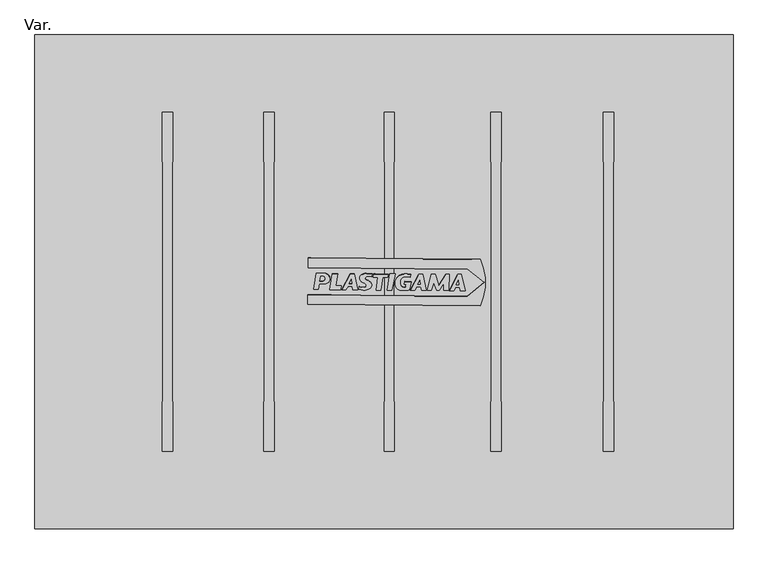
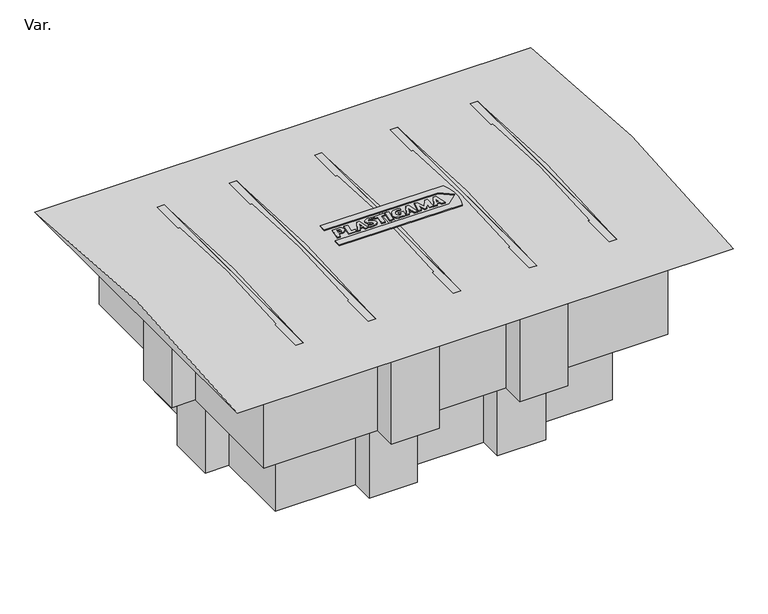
"""IFC4 building model written with IfcOpenShell, lengths in millimetres: pipe fitting geometry, PlastigamaWavin_Unionesdetubería_TanqueRectangular : Var.."""

from ifc_helpers import new_model, si_unit, point, frame, frame_2d, origin, origin_with_axes, place, context, project, spatial, polyline, circle_curve, trimmed, segment, composite_curve, outline, extrude, source, transform, mapped, element, save
from ifc_brep_helpers import plane_surface, cylinder_surface, advanced_brep


def var_d6a1bb93(model_context):
    return source(origin(), model_context, "Body", "SolidModel", [
        extrude(outline(composite_curve([segment(polyline([(-88.5809308, 416.0455503), (-120.1320369, 391.3951247), (-88.242825, 364.6368987), (217.5156325, 367.4665486), (217.5156325, 348.5780649), (-112.86166, 345.5205794)]), True, "CONTINUOUS"), segment(trimmed(circle_curve(frame_2d((-13.6192807, 390.2348931)), 108.8504464), [point((-112.86166, 345.5205794))], [point((-112.86166, 434.9492068))], False, "CARTESIAN"), True, "CONTINUOUS"), segment(polyline([(-112.86166, 434.9492068), (216.8628728, 438.0006513), (216.8628728, 418.8722882), (-88.5809308, 416.0455503)]), True, "CONTINUOUS")], self_intersect=False)), frame((-547.5, 0.0, 0.0), z_axis=(1.0, 0.0, 0.0), x_axis=(0.0, 1.0, 0.0)), (0.0, 0.0, 1.0), 2.5),
        extrude(outline(composite_curve([segment(polyline([(201.6698291, 408.1393793), (206.0020211, 377.3142314), (197.7283013, 377.3142314), (195.6256275, 388.1315504), (185.2734472, 388.1315504)]), True, "CONTINUOUS"), segment(trimmed(circle_curve(frame_2d((185.2734472, 398.1354648)), 10.0039144), [point((185.2734472, 388.1315504))], [point((185.2734472, 408.1393793))], False, "CARTESIAN"), True, "CONTINUOUS"), segment(polyline([(185.2734472, 408.1393793), (201.6698291, 408.1393793)]), True, "CONTINUOUS")], self_intersect=False), holes=[composite_curve([segment(polyline([(194.613233, 393.3398687), (192.8751255, 402.2816565), (188.0365168, 402.2816565)]), True, "CONTINUOUS"), segment(trimmed(circle_curve(frame_2d((189.2932031, 397.8990705)), 4.5592018), [point((188.0365168, 402.2816565))], [point((189.2932031, 393.3398687))], True, "CARTESIAN"), True, "CONTINUOUS"), segment(polyline([(189.2932031, 393.3398687), (194.613233, 393.3398687)]), True, "CONTINUOUS")], self_intersect=False)]), frame((-547.5, 0.0, 0.0), z_axis=(1.0, 0.0, 0.0), x_axis=(0.0, 1.0, 0.0)), (0.0, 0.0, 1.0), 2.5),
        extrude(outline(polyline([(170.8255894, 407.7027058), (175.6978376, 376.9405417), (154.8381525, 376.9405417), (153.7261656, 383.9613506), (164.2084615, 383.9613506), (159.9260442, 407.7027058), (170.8255894, 407.7027058)])), frame((-547.5, 0.0, 0.0), z_axis=(1.0, 0.0, 0.0), x_axis=(0.0, 1.0, 0.0)), (0.0, 0.0, 1.0), 2.5),
        extrude(outline(polyline([(128.8118841, 407.7027058), (136.1408874, 407.7027058), (152.8286562, 376.6692874), (144.7707029, 376.6692874), (140.2915755, 383.5665388), (132.8077756, 383.5665388), (130.9596626, 376.6692874), (122.2155274, 376.6692874), (128.8118841, 407.7027058)]), holes=[polyline([(133.5049757, 388.4644692), (138.0944411, 388.4644692), (134.3647219, 396.6444079), (133.5049757, 388.4644692)])]), frame((-547.5, 0.0, 0.0), z_axis=(1.0, 0.0, 0.0), x_axis=(0.0, 1.0, 0.0)), (0.0, 0.0, 1.0), 2.5),
        extrude(outline(composite_curve([segment(polyline([(119.584991, 377.6685057), (114.9189116, 376.4182335)]), True, "CONTINUOUS"), segment(trimmed(circle_curve(frame_2d((109.6430193, 396.1081318)), 20.3844826), [point((114.9189116, 376.4182335))], [point((107.8663946, 375.8012182))], False, "CARTESIAN"), True, "CONTINUOUS"), segment(trimmed(circle_curve(frame_2d((109.6430193, 396.1081318)), 20.3844826), [point((107.8663946, 375.8012182))], [point((99.4437904, 378.4586881))], False, "CARTESIAN"), True, "CONTINUOUS"), segment(trimmed(circle_curve(frame_2d((103.6744385, 385.7796912)), 8.4554994), [point((99.4437904, 378.4586881))], [point((99.4437904, 393.1006944))], False, "CARTESIAN"), True, "CONTINUOUS"), segment(trimmed(circle_curve(frame_2d((112.325438, 374.0880605)), 22.9655632), [point((99.4437904, 393.1006944))], [point((104.9982225, 395.8533771))], False, "CARTESIAN"), True, "CONTINUOUS"), segment(trimmed(circle_curve(frame_2d((103.8943008, 399.1325499)), 3.4600025), [point((104.9982225, 395.8533771))], [point((103.8943008, 402.5925524))], True, "CARTESIAN"), True, "CONTINUOUS"), segment(trimmed(circle_curve(frame_2d((103.8943008, 373.6344155)), 28.9581368), [point((103.8943008, 402.5925524))], [point((99.7245326, 402.2907712))], True, "CARTESIAN"), True, "CONTINUOUS"), segment(polyline([(99.7245326, 402.2907712), (95.0680697, 401.7190295), (94.0876951, 407.2790101), (105.8169562, 408.3051875)]), True, "CONTINUOUS"), segment(trimmed(circle_curve(frame_2d((106.8712484, 396.2545731)), 12.0966457), [point((105.8169562, 408.3051875))], [point((117.8345326, 401.3668365))], False, "CARTESIAN"), True, "CONTINUOUS"), segment(trimmed(circle_curve(frame_2d((107.770642, 399.4400459)), 10.2466782), [point((117.8345326, 401.3668365))], [point((111.1339377, 389.7610658))], False, "CARTESIAN"), True, "CONTINUOUS"), segment(trimmed(circle_curve(frame_2d((116.3539361, 374.7388179)), 15.9033429), [point((111.1339377, 389.7610658))], [point((106.5874215, 387.2899735))], True, "CARTESIAN"), True, "CONTINUOUS"), segment(trimmed(circle_curve(frame_2d((109.0518238, 384.9327152)), 3.4102706), [point((106.5874215, 387.2899735))], [point((108.0962179, 381.6590685))], True, "CARTESIAN"), True, "CONTINUOUS"), segment(trimmed(circle_curve(frame_2d((111.8653937, 394.5712431)), 13.4510572), [point((108.0962179, 381.6590685))], [point((118.6523193, 382.9579498))], True, "CARTESIAN"), True, "CONTINUOUS"), segment(polyline([(118.6523193, 382.9579498), (119.584991, 377.6685057)]), True, "CONTINUOUS")], self_intersect=False)), frame((-547.5, 0.0, 0.0), z_axis=(1.0, 0.0, 0.0), x_axis=(0.0, 1.0, 0.0)), (0.0, 0.0, 1.0), 2.5),
        extrude(outline(polyline([(92.074803, 400.1876514), (83.1378511, 400.1876514), (86.5167803, 376.1453206), (77.8423841, 376.1453206), (73.6030725, 400.1876514), (64.6242139, 400.1876514), (63.7205181, 406.6177811), (90.8091313, 407.3656318), (92.074803, 400.1876514)])), frame((-547.5, 0.0, 0.0), z_axis=(1.0, 0.0, 0.0), x_axis=(0.0, 1.0, 0.0)), (0.0, 0.0, 1.0), 2.5),
        extrude(outline(polyline([(60.1767768, 407.2582549), (65.1188329, 376.0553407), (56.3976628, 376.0553407), (50.384977, 406.9879272), (60.1767768, 407.2582549)])), frame((-547.5, 0.0, 0.0), z_axis=(1.0, 0.0, 0.0), x_axis=(0.0, 1.0, 0.0)), (0.0, 0.0, 1.0), 2.5),
        extrude(outline(composite_curve([segment(polyline([(32.5146815, 387.3915301), (29.127239, 387.3915301), (29.5605975, 383.862108)]), True, "CONTINUOUS"), segment(trimmed(circle_curve(frame_2d((32.1745583, 384.183062)), 2.6335912), [point((29.5605975, 383.862108))], [point((32.1745583, 381.5494709))], True, "CARTESIAN"), True, "CONTINUOUS"), segment(trimmed(circle_curve(frame_2d((33.3945555, 386.3157124)), 4.9199036), [point((32.1745583, 381.5494709))], [point((36.5164086, 382.5131494))], True, "CARTESIAN"), True, "CONTINUOUS"), segment(trimmed(circle_curve(frame_2d((29.4504552, 391.1198109)), 11.1356328), [point((36.5164086, 382.5131494))], [point((35.0451819, 400.747965))], True, "CARTESIAN"), True, "CONTINUOUS"), segment(trimmed(circle_curve(frame_2d((30.5136813, 392.9495524)), 9.0194089), [point((35.0451819, 400.747965))], [point((28.3343875, 401.7017187))], True, "CARTESIAN"), True, "CONTINUOUS"), segment(polyline([(28.3343875, 401.7017187), (21.4007175, 400.6791181), (20.1079096, 406.2788846), (27.0431915, 407.1304302), (33.0664389, 407.1304302)]), True, "CONTINUOUS"), segment(trimmed(circle_curve(frame_2d((33.0664389, 390.4756057)), 16.6548245), [point((33.0664389, 407.1304302))], [point((47.1905311, 399.301318))], False, "CARTESIAN"), True, "CONTINUOUS"), segment(trimmed(circle_curve(frame_2d((31.5657054, 389.5378433)), 18.424457), [point((47.1905311, 399.301318))], [point((47.1905311, 379.7743686))], False, "CARTESIAN"), True, "CONTINUOUS"), segment(trimmed(circle_curve(frame_2d((39.2708488, 384.7231353)), 9.3387183), [point((47.1905311, 379.7743686))], [point((37.9711504, 375.4753008))], False, "CARTESIAN"), True, "CONTINUOUS"), segment(polyline([(37.9711504, 375.4753008), (29.1775876, 375.4753008)]), True, "CONTINUOUS"), segment(trimmed(circle_curve(frame_2d((29.1775876, 392.9504667)), 17.4751659), [point((29.1775876, 375.4753008))], [point((24.750873, 376.0452716))], False, "CARTESIAN"), True, "CONTINUOUS"), segment(trimmed(circle_curve(frame_2d((26.079769, 379.7794702)), 3.96361), [point((24.750873, 376.0452716))], [point((22.1889817, 379.0231778))], False, "CARTESIAN"), True, "CONTINUOUS"), segment(polyline([(22.1889817, 379.0231778), (19.5914449, 392.3863464), (32.1418426, 392.7233748), (32.5146815, 387.3915301)]), True, "CONTINUOUS")], self_intersect=False)), frame((-547.5, 0.0, 0.0), z_axis=(1.0, 0.0, 0.0), x_axis=(0.0, 1.0, 0.0)), (0.0, 0.0, 1.0), 2.5),
        extrude(outline(polyline([(4.8892777, 406.3332951), (21.2967643, 375.4753008), (12.5730607, 375.4753008), (8.8490921, 382.4790671), (0.7596732, 382.4790671), (-0.7290233, 375.4753008), (-9.5372046, 375.4753008), (-2.9781354, 406.3332951), (4.8892777, 406.3332951)]), holes=[polyline([(6.4161248, 387.0548131), (3.0005982, 395.1012895), (2.2447246, 387.0548131), (6.4161248, 387.0548131)])]), frame((-547.5, 0.0, 0.0), z_axis=(1.0, 0.0, 0.0), x_axis=(0.0, 1.0, 0.0)), (0.0, 0.0, 1.0), 2.5),
        extrude(outline(polyline([(-18.6714563, 406.3332951), (-10.9776942, 375.4753008), (-19.2738764, 375.4753008), (-23.4902412, 390.1795123), (-29.1346591, 375.4753008), (-34.6217202, 375.4753008), (-43.4360082, 389.0481142), (-42.7246872, 375.4753008), (-52.2360368, 375.4753008), (-53.8532358, 406.3332951), (-46.3877429, 406.3332951), (-32.995498, 385.7110464), (-26.2949233, 406.3332951), (-18.6714563, 406.3332951)])), frame((-547.5, 0.0, 0.0), z_axis=(1.0, 0.0, 0.0), x_axis=(0.0, 1.0, 0.0)), (0.0, 0.0, 1.0), 2.5),
        extrude(outline(polyline([(-69.7341912, 406.1650904), (-53.1114968, 374.902349), (-61.8093366, 374.902349), (-65.8134017, 381.0680686), (-73.2642316, 381.0680686), (-74.6877001, 374.902349), (-84.0352977, 374.902349), (-76.8177252, 406.1650904), (-69.7341912, 406.1650904)]), holes=[polyline([(-71.0007911, 394.6041785), (-72.1051349, 386.0886678), (-67.3861713, 386.0886678), (-71.0007911, 394.6041785)])]), frame((-547.5, 0.0, 0.0), z_axis=(1.0, 0.0, 0.0), x_axis=(0.0, 1.0, 0.0)), (0.0, 0.0, 1.0), 2.5),
        extrude(outline(composite_curve([segment(polyline([(-233.5329045, 391.3221132), (-538.9767081, 394.1488511), (-538.9767081, 413.2772142), (-209.2521753, 410.2257696)]), True, "CONTINUOUS"), segment(trimmed(circle_curve(frame_2d((-308.4945546, 365.5114559)), 108.8504464), [point((-209.2521753, 410.2257696))], [point((-209.2521753, 320.7971422))], False, "CARTESIAN"), True, "CONTINUOUS"), segment(polyline([(-209.2521753, 320.7971422), (-539.6294678, 323.8546278), (-539.6294678, 342.7431114), (-233.8710103, 339.9134616), (-201.9817984, 366.6716875), (-233.5329045, 391.3221132)]), True, "CONTINUOUS")], self_intersect=False)), frame((545.0, 0.0, 0.0), z_axis=(1.0, 0.0, 0.0), x_axis=(0.0, 1.0, 0.0)), (0.0, 0.0, 1.0), 2.5),
        extrude(outline(composite_curve([segment(polyline([(-523.7836644, 383.4159421), (-507.3872825, 383.4159421)]), True, "CONTINUOUS"), segment(trimmed(circle_curve(frame_2d((-507.3872825, 373.4120277)), 10.0039144), [point((-507.3872825, 383.4159421))], [point((-507.3872825, 363.4081132))], False, "CARTESIAN"), True, "CONTINUOUS"), segment(polyline([(-507.3872825, 363.4081132), (-517.7394629, 363.4081132), (-519.8421367, 352.5907942), (-528.1158564, 352.5907942), (-523.7836644, 383.4159421)]), True, "CONTINUOUS")], self_intersect=False), holes=[composite_curve([segment(polyline([(-516.7270683, 368.6164316), (-511.4070385, 368.6164316)]), True, "CONTINUOUS"), segment(trimmed(circle_curve(frame_2d((-511.4070385, 373.1756333)), 4.5592018), [point((-511.4070385, 368.6164316))], [point((-510.1503521, 377.5582194))], True, "CARTESIAN"), True, "CONTINUOUS"), segment(polyline([(-510.1503521, 377.5582194), (-514.9889608, 377.5582194), (-516.7270683, 368.6164316)]), True, "CONTINUOUS")], self_intersect=False)]), frame((545.0, 0.0, 0.0), z_axis=(1.0, 0.0, 0.0), x_axis=(0.0, 1.0, 0.0)), (0.0, 0.0, 1.0), 2.5),
        extrude(outline(polyline([(-492.9394247, 382.9792687), (-482.0398795, 382.9792687), (-486.3222969, 359.2379134), (-475.8400009, 359.2379134), (-476.9519878, 352.2171046), (-497.8116729, 352.2171046), (-492.9394247, 382.9792687)])), frame((545.0, 0.0, 0.0), z_axis=(1.0, 0.0, 0.0), x_axis=(0.0, 1.0, 0.0)), (0.0, 0.0, 1.0), 2.5),
        extrude(outline(polyline([(-450.9257194, 382.9792687), (-444.3293627, 351.9458502), (-453.0734979, 351.9458502), (-454.9216109, 358.8431016), (-462.4054108, 358.8431016), (-466.8845383, 351.9458502), (-474.9424915, 351.9458502), (-458.2547227, 382.9792687), (-450.9257194, 382.9792687)]), holes=[polyline([(-455.618811, 363.7410321), (-456.4785572, 371.9209707), (-460.2082764, 363.7410321), (-455.618811, 363.7410321)])]), frame((545.0, 0.0, 0.0), z_axis=(1.0, 0.0, 0.0), x_axis=(0.0, 1.0, 0.0)), (0.0, 0.0, 1.0), 2.5),
        extrude(outline(composite_curve([segment(polyline([(-441.6988263, 352.9450686), (-440.7661546, 358.2345127)]), True, "CONTINUOUS"), segment(trimmed(circle_curve(frame_2d((-433.979229, 369.847806)), 13.4510572), [point((-440.7661546, 358.2345127))], [point((-430.2100532, 356.9356313))], True, "CARTESIAN"), True, "CONTINUOUS"), segment(trimmed(circle_curve(frame_2d((-431.1656591, 360.209278)), 3.4102706), [point((-430.2100532, 356.9356313))], [point((-428.7012568, 362.5665363))], True, "CARTESIAN"), True, "CONTINUOUS"), segment(trimmed(circle_curve(frame_2d((-438.4677714, 350.0153807)), 15.9033429), [point((-428.7012568, 362.5665363))], [point((-433.247773, 365.0376286))], True, "CARTESIAN"), True, "CONTINUOUS"), segment(trimmed(circle_curve(frame_2d((-429.8844774, 374.7166088)), 10.2466782), [point((-433.247773, 365.0376286))], [point((-439.9483679, 376.6433994))], False, "CARTESIAN"), True, "CONTINUOUS"), segment(trimmed(circle_curve(frame_2d((-428.9850837, 371.531136)), 12.0966457), [point((-439.9483679, 376.6433994))], [point((-427.9307916, 383.5817503))], False, "CARTESIAN"), True, "CONTINUOUS"), segment(polyline([(-427.9307916, 383.5817503), (-416.2015304, 382.5555729), (-417.181905, 376.9955923), (-421.8383679, 377.5673341)]), True, "CONTINUOUS"), segment(trimmed(circle_curve(frame_2d((-426.0081361, 348.9109784)), 28.9581368), [point((-421.8383679, 377.5673341))], [point((-426.0081361, 377.8691152))], True, "CARTESIAN"), True, "CONTINUOUS"), segment(trimmed(circle_curve(frame_2d((-426.0081361, 374.4091127)), 3.4600025), [point((-426.0081361, 377.8691152))], [point((-427.1120578, 371.1299399))], True, "CARTESIAN"), True, "CONTINUOUS"), segment(trimmed(circle_curve(frame_2d((-434.4392733, 349.3646233)), 22.9655632), [point((-427.1120578, 371.1299399))], [point((-421.5576257, 368.3772572))], False, "CARTESIAN"), True, "CONTINUOUS"), segment(trimmed(circle_curve(frame_2d((-425.7882739, 361.0562541)), 8.4554994), [point((-421.5576257, 368.3772572))], [point((-421.5576257, 353.7352509))], False, "CARTESIAN"), True, "CONTINUOUS"), segment(trimmed(circle_curve(frame_2d((-431.7568546, 371.3846946)), 20.3844826), [point((-421.5576257, 353.7352509))], [point((-429.9802299, 351.0777811))], False, "CARTESIAN"), True, "CONTINUOUS"), segment(trimmed(circle_curve(frame_2d((-431.7568546, 371.3846946)), 20.3844826), [point((-429.9802299, 351.0777811))], [point((-437.0327469, 351.6947964))], False, "CARTESIAN"), True, "CONTINUOUS"), segment(polyline([(-437.0327469, 351.6947964), (-441.6988263, 352.9450686)]), True, "CONTINUOUS")], self_intersect=False)), frame((545.0, 0.0, 0.0), z_axis=(1.0, 0.0, 0.0), x_axis=(0.0, 1.0, 0.0)), (0.0, 0.0, 1.0), 2.5),
        extrude(outline(polyline([(-414.1886383, 375.4642142), (-412.9229667, 382.6421946), (-385.8343535, 381.8943439), (-386.7380493, 375.4642142), (-395.7169078, 375.4642142), (-399.9562194, 351.4218835), (-408.6306156, 351.4218835), (-405.2516864, 375.4642142), (-414.1886383, 375.4642142)])), frame((545.0, 0.0, 0.0), z_axis=(1.0, 0.0, 0.0), x_axis=(0.0, 1.0, 0.0)), (0.0, 0.0, 1.0), 2.5),
        extrude(outline(polyline([(-382.2906121, 382.5348178), (-372.4988124, 382.26449), (-378.5114981, 351.3319035), (-387.2326682, 351.3319035), (-382.2906121, 382.5348178)])), frame((545.0, 0.0, 0.0), z_axis=(1.0, 0.0, 0.0), x_axis=(0.0, 1.0, 0.0)), (0.0, 0.0, 1.0), 2.5),
        extrude(outline(composite_curve([segment(polyline([(-354.6285168, 362.6680929), (-354.2556779, 367.9999376), (-341.7052802, 367.6629093), (-344.3028171, 354.2997406)]), True, "CONTINUOUS"), segment(trimmed(circle_curve(frame_2d((-348.1936043, 355.056033)), 3.96361), [point((-344.3028171, 354.2997406))], [point((-346.8647083, 351.3218344))], False, "CARTESIAN"), True, "CONTINUOUS"), segment(trimmed(circle_curve(frame_2d((-351.2914229, 368.2270295)), 17.4751659), [point((-346.8647083, 351.3218344))], [point((-351.2914229, 350.7518636))], False, "CARTESIAN"), True, "CONTINUOUS"), segment(polyline([(-351.2914229, 350.7518636), (-360.0849858, 350.7518636)]), True, "CONTINUOUS"), segment(trimmed(circle_curve(frame_2d((-361.3846841, 359.9996982)), 9.3387183), [point((-360.0849858, 350.7518636))], [point((-369.3043664, 355.0509314))], False, "CARTESIAN"), True, "CONTINUOUS"), segment(trimmed(circle_curve(frame_2d((-353.6795407, 364.8144061)), 18.424457), [point((-369.3043664, 355.0509314))], [point((-369.3043664, 374.5778809))], False, "CARTESIAN"), True, "CONTINUOUS"), segment(trimmed(circle_curve(frame_2d((-355.1802742, 365.7521685)), 16.6548245), [point((-369.3043664, 374.5778809))], [point((-355.1802742, 382.406993))], False, "CARTESIAN"), True, "CONTINUOUS"), segment(polyline([(-355.1802742, 382.406993), (-349.1570268, 382.406993), (-342.2217449, 381.5554475), (-343.5145529, 375.9556809), (-350.4482229, 376.9782816)]), True, "CONTINUOUS"), segment(trimmed(circle_curve(frame_2d((-352.6275166, 368.2261153)), 9.0194089), [point((-350.4482229, 376.9782816))], [point((-357.1590173, 376.0245278))], True, "CARTESIAN"), True, "CONTINUOUS"), segment(trimmed(circle_curve(frame_2d((-351.5642906, 366.3963737)), 11.1356328), [point((-357.1590173, 376.0245278))], [point((-358.6302439, 357.7897123))], True, "CARTESIAN"), True, "CONTINUOUS"), segment(trimmed(circle_curve(frame_2d((-355.5083909, 361.5922752)), 4.9199036), [point((-358.6302439, 357.7897123))], [point((-354.2883936, 356.8260337))], True, "CARTESIAN"), True, "CONTINUOUS"), segment(trimmed(circle_curve(frame_2d((-354.2883936, 359.4596249)), 2.6335912), [point((-354.2883936, 356.8260337))], [point((-351.6744329, 359.1386708))], True, "CARTESIAN"), True, "CONTINUOUS"), segment(polyline([(-351.6744329, 359.1386708), (-351.2410743, 362.6680929), (-354.6285168, 362.6680929)]), True, "CONTINUOUS")], self_intersect=False)), frame((545.0, 0.0, 0.0), z_axis=(1.0, 0.0, 0.0), x_axis=(0.0, 1.0, 0.0)), (0.0, 0.0, 1.0), 2.5),
        extrude(outline(polyline([(-327.003113, 381.609858), (-319.1356999, 381.609858), (-312.5766307, 350.7518636), (-321.384812, 350.7518636), (-322.8735085, 357.7556299), (-330.9629274, 357.7556299), (-334.686896, 350.7518636), (-343.4105996, 350.7518636), (-327.003113, 381.609858)]), holes=[polyline([(-328.5299601, 362.3313759), (-324.3585599, 362.3313759), (-325.1144335, 370.3778523), (-328.5299601, 362.3313759)])]), frame((545.0, 0.0, 0.0), z_axis=(1.0, 0.0, 0.0), x_axis=(0.0, 1.0, 0.0)), (0.0, 0.0, 1.0), 2.5),
        extrude(outline(polyline([(-303.442379, 381.609858), (-295.8189121, 381.609858), (-289.1183373, 360.9876093), (-275.7260924, 381.609858), (-268.2605995, 381.609858), (-269.8777985, 350.7518636), (-279.3891481, 350.7518636), (-278.6778271, 364.324677), (-287.4921152, 350.7518636), (-292.9791762, 350.7518636), (-298.6235942, 365.4560751), (-302.839959, 350.7518636), (-311.1361411, 350.7518636), (-303.442379, 381.609858)])), frame((545.0, 0.0, 0.0), z_axis=(1.0, 0.0, 0.0), x_axis=(0.0, 1.0, 0.0)), (0.0, 0.0, 1.0), 2.5),
        extrude(outline(polyline([(-252.3796441, 381.4416532), (-245.2961101, 381.4416532), (-238.0785376, 350.1789119), (-247.4261352, 350.1789119), (-248.8496037, 356.3446314), (-256.3004336, 356.3446314), (-260.3044987, 350.1789119), (-269.0023385, 350.1789119), (-252.3796441, 381.4416532)]), holes=[polyline([(-251.1130442, 369.8807413), (-254.7276641, 361.3652307), (-250.0087004, 361.3652307), (-251.1130442, 369.8807413)])]), frame((545.0, 0.0, 0.0), z_axis=(1.0, 0.0, 0.0), x_axis=(0.0, 1.0, 0.0)), (0.0, 0.0, 1.0), 2.5),
        extrude(outline(composite_curve([segment(polyline([(14.0136248, 0.0), (256.4469404, 185.8224829), (268.2235366, 170.7491271), (6.5184021, -29.8449941)]), True, "CONTINUOUS"), segment(trimmed(circle_curve(frame_2d((57.1935839, 66.4900756)), 108.8504464), [point((6.5184021, -29.8449941))], [point((-48.5393585, 40.625726))], False, "CARTESIAN"), True, "CONTINUOUS"), segment(polyline([(-48.5393585, 40.625726), (213.6838768, 241.6169657), (225.3127885, 226.7326376), (-17.3702704, 40.718729), (-26.0253035, 0.0), (14.0136248, 0.0)]), True, "CONTINUOUS")], self_intersect=False)), frame((171.1341609, -149.1261661, 507.3584044), z_axis=(0.0, -0.002233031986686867, 0.9999975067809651), x_axis=(-0.7880107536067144, 0.615659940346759, 0.0013747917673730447)), (0.0, 0.0, 1.0), 2.5),
        extrude(outline(composite_curve([segment(polyline([(20.1980598, 0.0), (22.4799951, -16.2368134)]), True, "CONTINUOUS"), segment(trimmed(circle_curve(frame_2d((12.5734381, -17.6290892)), 10.0039144), [point((22.4799951, -16.2368134))], [point((2.666881, -19.021365))], False, "CARTESIAN"), True, "CONTINUOUS"), segment(polyline([(2.666881, -19.021365), (1.226136, -8.7699314), (-9.7785452, -8.1932005), (-10.9300244, 0.0), (20.1980598, 0.0)]), True, "CONTINUOUS")], self_intersect=False), holes=[composite_curve([segment(polyline([(6.5246654, -9.0476156), (7.2650704, -14.3158712)]), True, "CONTINUOUS"), segment(trimmed(circle_curve(frame_2d((11.7799025, -13.6813529)), 4.5592018), [point((7.2650704, -14.3158712))], [point((16.2947343, -14.3158713))], True, "CARTESIAN"), True, "CONTINUOUS"), segment(polyline([(16.2947343, -14.3158713), (15.6213301, -9.5243516), (6.5246654, -9.0476156)]), True, "CONTINUOUS")], self_intersect=False)]), frame((-132.9705127, -168.4061338, 507.3153515), z_axis=(0.0, -0.0022330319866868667, 0.9999975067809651), x_axis=(0.1391731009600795, 0.9902655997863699, 0.0022113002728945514)), (0.0, 0.0, 1.0), 2.5),
        extrude(outline(polyline([(24.0583245, -30.6048389), (25.575248, -41.3983104), (1.4689446, -40.4617273), (2.9277982, -50.8420103), (-4.1794432, -50.7179529), (-7.0825503, -30.0612728), (24.0583245, -30.6048389)])), frame((-132.9705127, -168.4061338, 507.3153515), z_axis=(0.0, -0.0022330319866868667, 0.9999975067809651), x_axis=(0.1391731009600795, 0.9902655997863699, 0.0022113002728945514)), (0.0, 0.0, 1.0), 2.5),
        extrude(outline(polyline([(29.9055021, -72.2096697), (0.0921343, -83.0608482), (-1.1248142, -74.4018103), (5.448106, -71.6117711), (4.4065624, -64.200803), (-3.0469395, -60.7251781), (-4.1683898, -52.7456442), (28.885502, -64.9519917), (29.9055021, -72.2096697)]), holes=[polyline([(10.2013386, -70.239696), (18.1820171, -68.2498893), (9.5626085, -65.6948949), (10.2013386, -70.239696)])]), frame((-132.9705127, -168.4061338, 507.3153515), z_axis=(0.0, -0.0022330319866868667, 0.9999975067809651), x_axis=(0.1391731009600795, 0.9902655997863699, 0.0022113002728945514)), (0.0, 0.0, 1.0), 2.5),
        extrude(outline(composite_curve([segment(polyline([(1.4477281, -85.52672), (6.8154985, -85.7141667)]), True, "CONTINUOUS"), segment(trimmed(circle_curve(frame_2d((19.2603296, -90.8187844)), 13.4510572), [point((6.8154985, -85.7141667))], [point((6.9983832, -96.3483062))], True, "CARTESIAN"), True, "CONTINUOUS"), segment(trimmed(circle_curve(frame_2d((10.1071764, -94.9463966)), 3.4102706), [point((6.9983832, -96.3483062))], [point((12.7844725, -97.0587486))], True, "CARTESIAN"), True, "CONTINUOUS"), segment(trimmed(circle_curve(frame_2d((-1.0037722, -89.1340643)), 15.9033429), [point((12.7844725, -97.0587486))], [point((14.5987635, -92.2125692))], True, "CARTESIAN"), True, "CONTINUOUS"), segment(trimmed(circle_curve(frame_2d((24.6516288, -94.1960799)), 10.2466782), [point((14.5987635, -92.2125692))], [point((25.1590451, -83.9619729))], False, "CARTESIAN"), True, "CONTINUOUS"), segment(trimmed(circle_curve(frame_2d((21.6223282, -95.5300527)), 12.0966457), [point((25.1590451, -83.9619729))], [point((33.7023958, -94.8969633))], False, "CARTESIAN"), True, "CONTINUOUS"), segment(polyline([(33.7023958, -94.8969633), (34.3186028, -106.6548923), (28.6762898, -106.4578584), (28.594413, -101.7671408)]), True, "CONTINUOUS"), segment(trimmed(circle_curve(frame_2d((-0.3633805, -101.6261464)), 28.9581368), [point((28.594413, -101.7671408))], [point((28.3129377, -97.5959527))], True, "CARTESIAN"), True, "CONTINUOUS"), segment(trimmed(circle_curve(frame_2d((24.8866077, -98.0774919)), 3.4600025), [point((28.3129377, -97.5959527))], [point((21.4857114, -97.4406862))], True, "CARTESIAN"), True, "CONTINUOUS"), segment(trimmed(circle_curve(frame_2d((-1.0875379, -93.2139252)), 22.9655632), [point((21.4857114, -97.4406862))], [point((19.5328452, -103.3241623))], False, "CARTESIAN"), True, "CONTINUOUS"), segment(trimmed(circle_curve(frame_2d((11.6942971, -100.1535732)), 8.4554994), [point((19.5328452, -103.3241623))], [point((5.0333338, -105.3619357))], False, "CARTESIAN"), True, "CONTINUOUS"), segment(trimmed(circle_curve(frame_2d((21.0915561, -92.8056372)), 20.3844826), [point((5.0333338, -105.3619357))], [point((1.2295264, -97.3911481))], False, "CARTESIAN"), True, "CONTINUOUS"), segment(trimmed(circle_curve(frame_2d((21.0915561, -92.8056372)), 20.3844826), [point((1.2295264, -97.3911481))], [point((0.8590162, -90.3213937))], False, "CARTESIAN"), True, "CONTINUOUS"), segment(polyline([(0.8590162, -90.3213937), (1.4477281, -85.52672)]), True, "CONTINUOUS")], self_intersect=False)), frame((-132.9705127, -168.4061338, 507.3153515), z_axis=(0.0, -0.0022330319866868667, 0.9999975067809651), x_axis=(0.1391731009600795, 0.9902655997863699, 0.0022113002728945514)), (0.0, 0.0, 1.0), 2.5),
        extrude(outline(polyline([(27.5763972, -109.6351215), (34.8606694, -109.8894939), (37.8901031, -136.8185632), (31.3967808, -136.8185632), (30.1471652, -127.9270863), (5.7488146, -127.0750772), (4.541572, -118.4850996), (28.8201805, -118.4850996), (27.5763972, -109.6351215)])), frame((-132.9705127, -168.4061338, 507.3153515), z_axis=(0.0, -0.0022330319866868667, 0.9999975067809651), x_axis=(0.1391731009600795, 0.9902655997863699, 0.0022113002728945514)), (0.0, 0.0, 1.0), 2.5),
        extrude(outline(polyline([(39.0175373, -140.2386804), (40.1125955, -149.9728094), (8.6442387, -148.3236227), (7.4304864, -139.6873264), (39.0175373, -140.2386804)])), frame((-132.9705127, -168.4061338, 507.3153515), z_axis=(0.0, -0.0022330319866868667, 0.9999975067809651), x_axis=(0.1391731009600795, 0.9902655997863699, 0.0022113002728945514)), (0.0, 0.0, 1.0), 2.5),
        extrude(outline(composite_curve([segment(polyline([(23.1939736, -170.3964838), (28.5258183, -170.0236449), (29.9387477, -182.4988083), (16.3441213, -181.7863441)]), True, "CONTINUOUS"), segment(trimmed(circle_curve(frame_2d((16.5515605, -177.8281662)), 3.96361), [point((16.3441213, -181.7863441))], [point((13.0386495, -179.6638295))], False, "CARTESIAN"), True, "CONTINUOUS"), segment(trimmed(circle_curve(frame_2d((29.1632448, -172.9274469)), 17.4751659), [point((13.0386495, -179.6638295))], [point((11.858146, -175.3595199))], False, "CARTESIAN"), True, "CONTINUOUS"), segment(polyline([(11.858146, -175.3595199), (10.6343186, -166.6515355)]), True, "CONTINUOUS"), segment(trimmed(circle_curve(frame_2d((19.6112708, -164.0774359)), 9.3387183), [point((10.6343186, -166.6515355))], [point((13.6084583, -156.9235626))], False, "CARTESIAN"), True, "CONTINUOUS"), segment(trimmed(circle_curve(frame_2d((25.4514711, -171.0375155)), 18.424457), [point((13.6084583, -156.9235626))], [point((32.9453729, -154.2059365))], False, "CARTESIAN"), True, "CONTINUOUS"), segment(trimmed(circle_curve(frame_2d((26.1712454, -169.4208757)), 16.6548245), [point((32.9453729, -154.2059365))], [point((42.6639863, -167.1029722))], False, "CARTESIAN"), True, "CONTINUOUS"), segment(polyline([(42.6639863, -167.1029722), (43.5022604, -173.0676017), (43.6242067, -180.0539022), (37.8990126, -179.5530127), (37.946681, -172.5445021)]), True, "CONTINUOUS"), segment(trimmed(circle_curve(frame_2d((28.9763911, -171.6044832)), 9.0194089), [point((37.946681, -172.5445021))], [point((36.0682471, -166.0317536))], True, "CARTESIAN"), True, "CONTINUOUS"), segment(trimmed(circle_curve(frame_2d((27.3124289, -172.9120128)), 11.1356328), [point((36.0682471, -166.0317536))], [point((17.8061363, -167.1126406))], True, "CARTESIAN"), True, "CONTINUOUS"), segment(trimmed(circle_curve(frame_2d((22.006171, -169.6748976)), 4.9199036), [point((17.8061363, -167.1126406))], [point((17.456105, -171.5463545))], True, "CARTESIAN"), True, "CONTINUOUS"), segment(trimmed(circle_curve(frame_2d((20.0640662, -171.1798294)), 2.6335912), [point((17.456105, -171.5463545))], [point((20.1100287, -173.8130195))], True, "CARTESIAN"), True, "CONTINUOUS"), segment(polyline([(20.1100287, -173.8130195), (23.6654145, -173.75096), (23.1939736, -170.3964838)]), True, "CONTINUOUS")], self_intersect=False)), frame((-132.9705127, -168.4061338, 507.3153515), z_axis=(0.0, -0.0022330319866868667, 0.9999975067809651), x_axis=(0.1391731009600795, 0.9902655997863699, 0.0022113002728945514)), (0.0, 0.0, 1.0), 2.5),
        extrude(outline(polyline([(45.7961118, -195.1168549), (46.8910441, -202.9077029), (17.2462036, -213.6975425), (16.0203417, -204.9750818), (22.7487614, -202.5261373), (21.6229319, -194.515444), (14.1690495, -191.8024527), (12.9549446, -183.1636476), (45.7961118, -195.1168549)]), holes=[polyline([(26.4927507, -196.2879131), (27.0732974, -200.4187175), (34.9362687, -198.550347), (26.4927507, -196.2879131)])]), frame((-132.9705127, -168.4061338, 507.3153515), z_axis=(0.0, -0.0022330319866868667, 0.9999975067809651), x_axis=(0.1391731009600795, 0.9902655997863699, 0.0022113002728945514)), (0.0, 0.0, 1.0), 2.5),
        extrude(outline(polyline([(49.0751322, -218.4482975), (50.1361138, -225.9975733), (30.6470991, -235.5030009), (52.9324938, -245.8948511), (53.9714896, -253.2876903), (23.1887325, -255.9808326), (21.8650085, -246.5620468), (35.404729, -245.3774747), (20.7372935, -238.5379373), (19.9736422, -233.1042759), (33.7492022, -225.4683582), (18.6012864, -223.3394575), (17.4466811, -215.1240133), (49.0751322, -218.4482975)])), frame((-132.9705127, -168.4061338, 507.3153515), z_axis=(0.0, -0.0022330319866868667, 0.9999975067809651), x_axis=(0.1391731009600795, 0.9902655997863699, 0.0022113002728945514)), (0.0, 0.0, 1.0), 2.5),
        extrude(outline(polyline([(56.0151236, -269.0375029), (57.000961, -276.0521005), (27.0469585, -287.5503647), (25.7460243, -278.2937373), (31.653631, -276.0260196), (30.6166759, -268.6477006), (23.9537026, -265.5407051), (22.7431972, -256.9275121), (56.0151236, -269.0375029)]), holes=[polyline([(44.7429983, -271.9007443), (35.8073022, -269.5064317), (36.464055, -274.1794707), (44.7429983, -271.9007443)])]), frame((-132.9705127, -168.4061338, 507.3153515), z_axis=(0.0, -0.0022330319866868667, 0.9999975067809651), x_axis=(0.1391731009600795, 0.9902655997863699, 0.0022113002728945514)), (0.0, 0.0, 1.0), 2.5),
        advanced_brep(
        [(669.0, -637.5903159, 472.97), (669.0, 308.4708719, 472.97), (-669.0, -637.5903159, 472.97), (-669.0, 308.4708719, 472.97), (20.0, 160.1978981, 491.1711496), (20.0, -489.3173421, 491.1711496), (0.0, -489.3173421, 491.1711496), (0.0, 160.1978981, 491.1711496), (225.0, 160.1978981, 491.1711496), (225.0, -489.3173421, 491.1711496), (205.0, -489.3173421, 491.1711496), (205.0, 160.1978981, 491.1711496), (440.0, 160.1978981, 491.1711496), (440.0, -489.3173421, 491.1711496), (420.0, -489.3173421, 491.1711496), (420.0, 160.1978981, 491.1711496), (-210.0, 160.1978981, 491.1711496), (-210.0, -489.3173421, 491.1711496), (-230.0, -489.3173421, 491.1711496), (-230.0, 160.1978981, 491.1711496), (-405.0, 160.1978981, 491.1711496), (-405.0, -489.3173421, 491.1711496), (-425.0, -489.3173421, 491.1711496), (-425.0, 160.1978981, 491.1711496)],
        [
            (0, 1),
            (1, 0, circle_curve(frame((669.0, -164.559722, -2767.4612869), z_axis=(1.0, 0.0, 0.0), x_axis=(0.0, 1.0, 0.0)), 3274.7752392)),
            (2, 3, circle_curve(frame((-669.0, -164.559722, -2767.4612869), z_axis=(-1.0, 0.0, 0.0), x_axis=(0.0, 1.0, 0.0)), 3274.7752392)),
            (3, 2),
            (0, 2),
            (3, 1),
            (4, 5, circle_curve(frame((20.0, -164.559722, -2767.4612869), z_axis=(1.0, 0.0, 0.0), x_axis=(0.0, 1.0, 0.0)), 3274.7752392)),
            (5, 6),
            (6, 7, circle_curve(frame((0.0, -164.559722, -2767.4612869), z_axis=(-1.0, 0.0, 0.0), x_axis=(0.0, 1.0, 0.0)), 3274.7752392)),
            (7, 4),
            (8, 9, circle_curve(frame((225.0, -164.559722, -2767.4612869), z_axis=(1.0, 0.0, 0.0), x_axis=(0.0, 1.0, 0.0)), 3274.7752392)),
            (9, 10),
            (10, 11, circle_curve(frame((205.0, -164.559722, -2767.4612869), z_axis=(-1.0, 0.0, 0.0), x_axis=(0.0, 1.0, 0.0)), 3274.7752392)),
            (11, 8),
            (12, 13, circle_curve(frame((440.0, -164.559722, -2767.4612869), z_axis=(1.0, 0.0, 0.0), x_axis=(0.0, 1.0, 0.0)), 3274.7752392)),
            (13, 14),
            (14, 15, circle_curve(frame((420.0, -164.559722, -2767.4612869), z_axis=(-1.0, 0.0, 0.0), x_axis=(0.0, 1.0, 0.0)), 3274.7752392)),
            (15, 12),
            (16, 17, circle_curve(frame((-210.0, -164.559722, -2767.4612869), z_axis=(1.0, 0.0, 0.0), x_axis=(0.0, 1.0, 0.0)), 3274.7752392)),
            (17, 18),
            (18, 19, circle_curve(frame((-230.0, -164.559722, -2767.4612869), z_axis=(-1.0, 0.0, 0.0), x_axis=(0.0, 1.0, 0.0)), 3274.7752392)),
            (19, 16),
            (20, 21, circle_curve(frame((-405.0, -164.559722, -2767.4612869), z_axis=(1.0, 0.0, 0.0), x_axis=(0.0, 1.0, 0.0)), 3274.7752392)),
            (21, 22),
            (22, 23, circle_curve(frame((-425.0, -164.559722, -2767.4612869), z_axis=(-1.0, 0.0, 0.0), x_axis=(0.0, 1.0, 0.0)), 3274.7752392)),
            (23, 20),
            (4, 5),
            (6, 7),
            (8, 9),
            (10, 11),
            (12, 13),
            (14, 15),
            (16, 17),
            (18, 19),
            (20, 21),
            (22, 23),
        ],
        [
            plane_surface(frame((669.0, -637.5903159, 472.97), z_axis=(1.0, 0.0, 0.0), x_axis=(0.0, 1.0, 0.0))),
            plane_surface(frame((-669.0, -637.5903159, 472.97), z_axis=(-1.0, 0.0, 0.0), x_axis=(0.0, -1.0, 0.0))),
            plane_surface(frame((669.0, -637.5903159, 472.97), z_axis=(0.0, 0.0, -1.0), x_axis=(-1.0, 0.0, 0.0))),
            cylinder_surface(frame((-669.0, -164.559722, -2767.4612869), z_axis=(1.0, 0.0, 0.0), x_axis=(0.0, 1.0, 0.0)), 3274.7752392),
            plane_surface(frame((20.0, -637.5903159, 491.1711496), z_axis=(-1.0, 0.0, 0.0), x_axis=(0.0, 1.0, 0.0))),
            plane_surface(frame((0.0, -637.5903159, 491.1711496), z_axis=(1.0, 0.0, 0.0), x_axis=(0.0, -1.0, 0.0))),
            plane_surface(frame((20.0, -489.3173421, 491.1711496), z_axis=(0.0, 0.0, 1.0), x_axis=(-1.0, 0.0, 0.0))),
            plane_surface(frame((225.0, -637.5903159, 491.1711496), z_axis=(-1.0, 0.0, 0.0), x_axis=(0.0, 1.0, 0.0))),
            plane_surface(frame((205.0, -637.5903159, 491.1711496), z_axis=(1.0, 0.0, 0.0), x_axis=(0.0, -1.0, 0.0))),
            plane_surface(frame((225.0, -489.3173421, 491.1711496), z_axis=(0.0, 0.0, 1.0), x_axis=(-1.0, 0.0, 0.0))),
            plane_surface(frame((440.0, -637.5903159, 491.1711496), z_axis=(-1.0, 0.0, 0.0), x_axis=(0.0, 1.0, 0.0))),
            plane_surface(frame((420.0, -637.5903159, 491.1711496), z_axis=(1.0, 0.0, 0.0), x_axis=(0.0, -1.0, 0.0))),
            plane_surface(frame((440.0, -489.3173421, 491.1711496), z_axis=(0.0, 0.0, 1.0), x_axis=(-1.0, 0.0, 0.0))),
            plane_surface(frame((-210.0, -637.5903159, 491.1711496), z_axis=(-1.0, 0.0, 0.0), x_axis=(0.0, 1.0, 0.0))),
            plane_surface(frame((-230.0, -637.5903159, 491.1711496), z_axis=(1.0, 0.0, 0.0), x_axis=(0.0, -1.0, 0.0))),
            plane_surface(frame((-210.0, -489.3173421, 491.1711496), z_axis=(0.0, 0.0, 1.0), x_axis=(-1.0, 0.0, 0.0))),
            plane_surface(frame((-405.0, -637.5903159, 491.1711496), z_axis=(-1.0, 0.0, 0.0), x_axis=(0.0, 1.0, 0.0))),
            plane_surface(frame((-425.0, -637.5903159, 491.1711496), z_axis=(1.0, 0.0, 0.0), x_axis=(0.0, -1.0, 0.0))),
            plane_surface(frame((-405.0, -489.3173421, 491.1711496), z_axis=(0.0, 0.0, 1.0), x_axis=(-1.0, 0.0, 0.0))),
        ],
        [
            (0, [[1, 2]]),
            (1, [[3, 4]]),
            (2, [[-1, 5, -4, 6]]),
            (3, [[-2, -6, -3, -5], [7, 8, 9, 10], [11, 12, 13, 14], [15, 16, 17, 18], [19, 20, 21, 22], [23, 24, 25, 26]]),
            (4, [[27, -7]]),
            (5, [[28, -9]]),
            (6, [[-27, -10, -28, -8]]),
            (7, [[29, -11]]),
            (8, [[30, -13]]),
            (9, [[-29, -14, -30, -12]]),
            (10, [[31, -15]]),
            (11, [[32, -17]]),
            (12, [[-31, -18, -32, -16]]),
            (13, [[33, -19]]),
            (14, [[34, -21]]),
            (15, [[-33, -22, -34, -20]]),
            (16, [[35, -23]]),
            (17, [[36, -25]]),
            (18, [[-35, -26, -36, -24]]),
        ],
    ),
        extrude(outline(polyline([(545.0, -547.1580814), (-545.0, -547.1580814), (-545.0, 223.6419186), (545.0, 223.6419186), (545.0, -547.1580814)])), frame((0.0, 0.0, 217.97), z_axis=(0.0, 0.0, 1.0), x_axis=(1.0, 0.0, 0.0)), (0.0, 0.0, 1.0), 255.0),
        extrude(outline(polyline([(609.0, -96.7580814), (609.0, -226.7580814), (545.0, -226.7580814), (545.0, -96.7580814), (609.0, -96.7580814)])), frame((0.0, 0.0, 217.97), z_axis=(0.0, 0.0, 1.0), x_axis=(1.0, 0.0, 0.0)), (0.0, 0.0, 1.0), 255.0),
        extrude(outline(polyline([(-108.2, -611.1580814), (-238.2, -611.1580814), (-238.2, 287.6419186), (-108.2, 287.6419186), (-108.2, -611.1580814)])), frame((0.0, 0.0, 217.97), z_axis=(0.0, 0.0, 1.0), x_axis=(1.0, 0.0, 0.0)), (0.0, 0.0, 1.0), 255.0),
        extrude(outline(polyline([(238.2, -611.1580814), (108.2, -611.1580814), (108.2, 287.6419186), (238.2, 287.6419186), (238.2, -611.1580814)])), frame((0.0, 0.0, 217.97), z_axis=(0.0, 0.0, 1.0), x_axis=(1.0, 0.0, 0.0)), (0.0, 0.0, 1.0), 255.0),
        extrude(outline(polyline([(-545.0, -96.7580814), (-545.0, -226.7580814), (-609.0, -226.7580814), (-609.0, -96.7580814), (-545.0, -96.7580814)])), frame((0.0, 0.0, 217.97), z_axis=(0.0, 0.0, 1.0), x_axis=(1.0, 0.0, 0.0)), (0.0, 0.0, 1.0), 255.0),
        extrude(outline(polyline([(518.6, -100.0), (518.6, -230.0), (454.6, -230.0), (454.6, -100.0), (518.6, -100.0)])), origin_with_axes(), (0.0, 0.0, 1.0), 217.97),
        extrude(outline(polyline([(-454.6, -96.7580814), (-454.6, -226.7580814), (-518.6, -226.7580814), (-518.6, -96.7580814), (-454.6, -96.7580814)])), origin_with_axes(), (0.0, 0.0, 1.0), 217.97),
        extrude(outline(polyline([(238.2, -507.1580814), (108.2, -507.1580814), (108.2, 183.6419186), (238.2, 183.6419186), (238.2, -507.1580814)])), origin_with_axes(), (0.0, 0.0, 1.0), 217.97),
        extrude(outline(polyline([(-108.2, -507.1580814), (-238.2, -507.1580814), (-238.2, 183.6419186), (-108.2, 183.6419186), (-108.2, -507.1580814)])), origin_with_axes(), (0.0, 0.0, 1.0), 217.97),
        extrude(outline(polyline([(454.6, -443.1580814), (-454.6, -443.1580814), (-454.6, 119.6419186), (454.6, 119.6419186), (454.6, -443.1580814)])), origin_with_axes(), (0.0, 0.0, 1.0), 217.97),
    ])


if __name__ == "__main__":
    model = new_model("IFC4")
    model_context = context("Model", 3, world=origin())
    ifc_project = project(units=[si_unit("LENGTHUNIT", "METRE", prefix="MILLI")], contexts=[model_context])
    site = spatial("IfcSite", under=ifc_project)
    building = spatial("IfcBuilding", under=site)
    placement = place(None, origin())
    var_shape = var_d6a1bb93(model_context)
    element("IfcPipeFitting", 1, ObjectType="PlastigamaWavin_Unionesdetubería_TanqueRectangular : Var.", at=placement, inside=building, context=model_context, shape_type="MappedRepresentation", body=[
        mapped(var_shape, transform((0.0, 0.0, 0.0), x_axis=(1.0, 0.0, 0.0), y_axis=(0.0, 1.0, 0.0), z_axis=(0.0, 0.0, 1.0))),
    ])
    save(model, "model.ifc")
